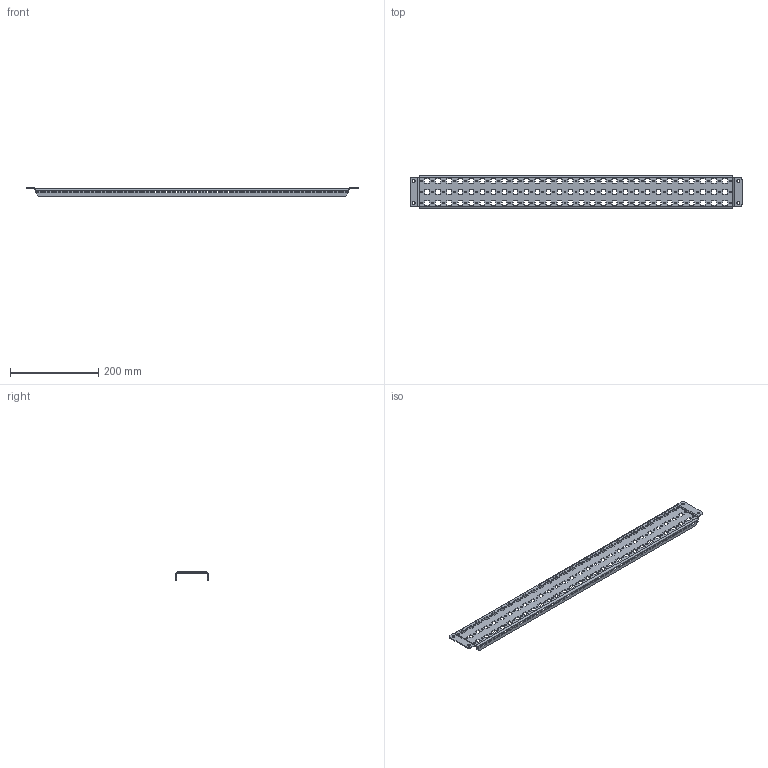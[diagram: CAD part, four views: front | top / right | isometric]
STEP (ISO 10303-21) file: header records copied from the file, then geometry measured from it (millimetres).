
FILE_DESCRIPTION (( 'STEP AP203' ), '1' );
FILE_NAME ('MRD 80.09 Ðåéêà ìîíòàæíàÿ âåðòèêàëüíàÿ.STEP', '2025-05-15T12:32:04', ( '' ), ( '' ), 'SwSTEP 2.0', 'SolidWorks 2019', '' );
FILE_SCHEMA (( 'CONFIG_CONTROL_DESIGN' ));
Length unit declared in the file: millimetre
Products named in the file (1): MRD 80.09 Ðåéêà ìîíòàæíàÿ âåðòèêàëüíàÿ
Bounding box: 752 x 74 x 19.03 mm (x, y, z)
Volume: 123533.3 mm3; surface area: 141619.7 mm2
Topology: 1 solids, 1 shells, 1376 faces, 4074 edges, 2700 vertices
Faces by surface type: plane 1054, cylinder 322
Entity records: 46811 total; most frequent: CARTESIAN_POINT 8151, ORIENTED_EDGE 8148, DIRECTION 7472, EDGE_CURVE 4074, LINE 3430, VECTOR 3430, VERTEX_POINT 2700, AXIS2_PLACEMENT_3D 2021
